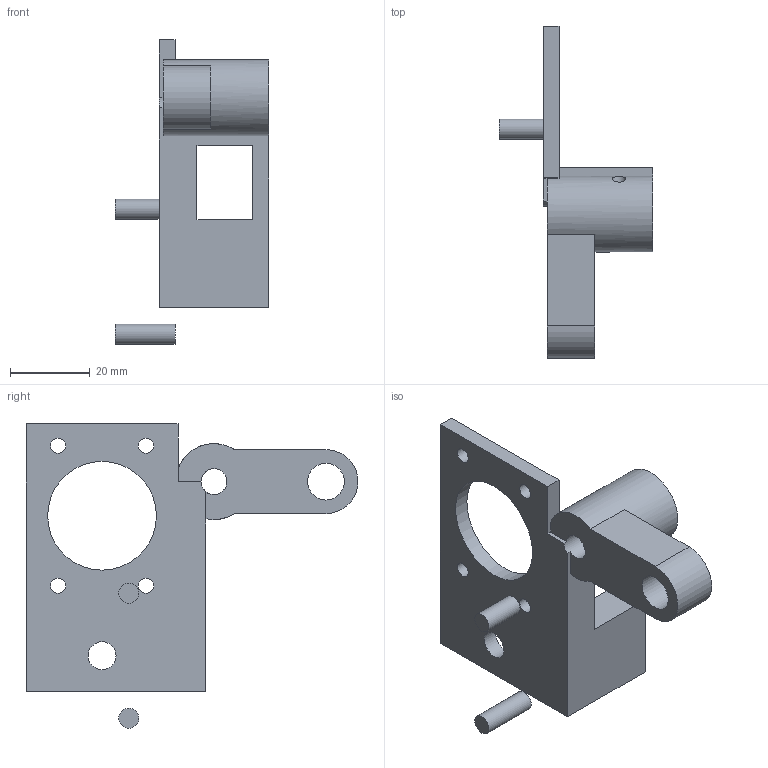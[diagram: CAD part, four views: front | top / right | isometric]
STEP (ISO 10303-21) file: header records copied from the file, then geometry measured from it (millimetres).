
FILE_DESCRIPTION(('Open CASCADE Model'),'2;1');
FILE_NAME('Open CASCADE Shape Model','2026-10-16T00:24:49',('Author'),( 'Open CASCADE'),'Open CASCADE STEP processor 7.9','Open CASCADE 7.9' ,'Unknown');
FILE_SCHEMA(('AUTOMOTIVE_DESIGN { 1 0 10303 214 1 1 1 1 }'));
Length unit declared in the file: millimetre
Products named in the file (3): Open CASCADE STEP translator 7.9 2; Open CASCADE STEP translator 7.9 2.1; Open CASCADE STEP translator 7.9 2.2
Assembly tree (2 placements, depth 2):
  Open CASCADE STEP translator 7.9 2
    Open CASCADE STEP translator 7.9 2.1
    Open CASCADE STEP translator 7.9 2.2
Bounding box: 38.5 x 83 x 76.12 mm (x, y, z)
Volume: 28258.3 mm3; surface area: 12938.9 mm2
Topology: 2 solids, 2 shells, 36 faces, 96 edges, 64 vertices
Faces by surface type: plane 23, cylinder 13
Full cylindrical faces by diameter (mm): 3.4 x1, 3.8 x4, 5 x2, 6.5 x1, 7 x1, 9.2 x1, 27.2 x1
Entity records: 2866 total; most frequent: CARTESIAN_POINT 960, DIRECTION 326, ORIENTED_EDGE 192, PCURVE 192, DEFINITIONAL_REPRESENTATION 192, LINE 179, VECTOR 179, EDGE_CURVE 96
